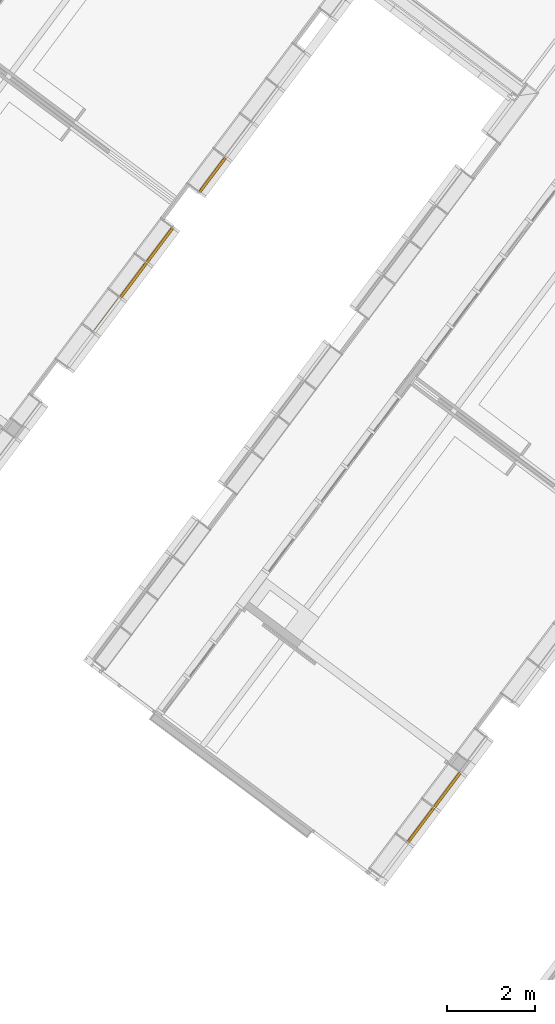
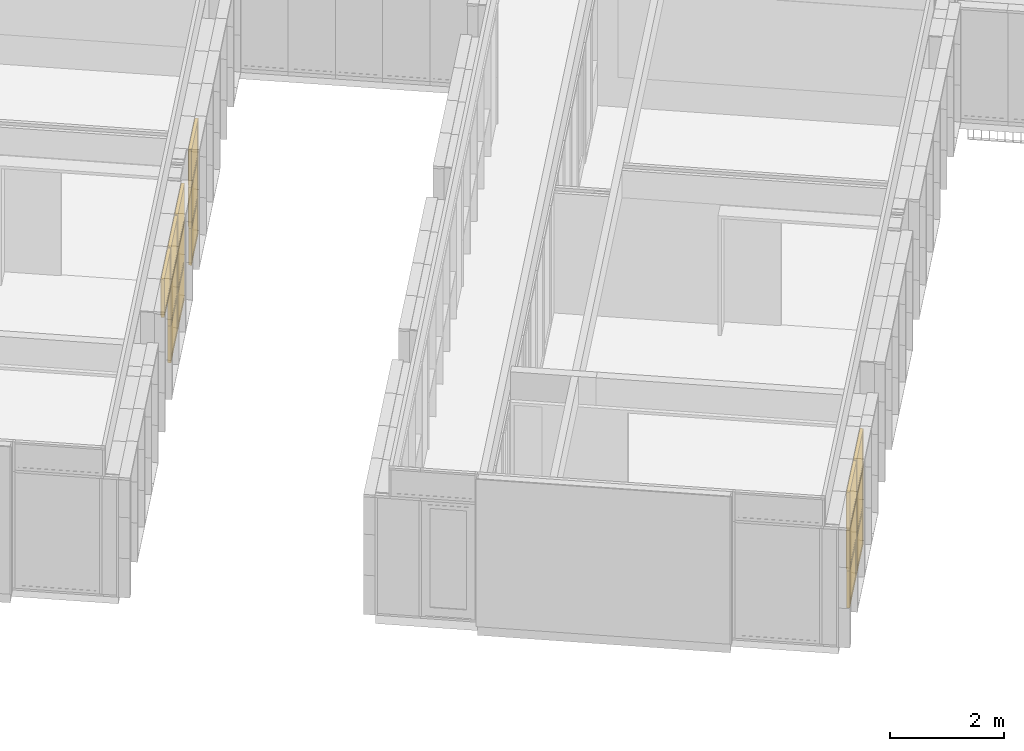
# One storey, part 185 of 243: 16 windows, 2 elements without a shape of their own.
"""IFC2X3 building model written with IfcOpenShell, lengths in metres."""

import ifcopenshell
import ifcopenshell.guid

model = None  # the IFC model being written
_history = None  # IfcOwnerHistory: only IFC2X3 demands one
_inside = {}  # id of a spatial element -> (the spatial element, [elements in it])
_under = {}  # id of a project, library or spatial element -> (it, [spatial elements below it])
_declared = {}  # id of a project -> (the project, [libraries it declares])
_typed = {}  # id of a type object -> (the type object, [elements of that type])
_made_of = {}  # id of a material, layer set ... -> (it, [elements and type objects made of it])


def new_model(schema):
    """Start an empty IFC model of exactly this schema.

    Asked for "IFC4X3", IfcOpenShell would pick the latest addendum, in which some entities
    have other attributes; the version numbers below select the first issue.
    IFC2X3 requires an IfcOwnerHistory on every rooted entity: one is made here for all.
    """
    global model, _history
    if schema == "IFC4X3":
        model = ifcopenshell.file(schema_version=(4, 3, 0, 0))
    else:
        model = ifcopenshell.file(schema=schema)
    _inside.clear()
    _under.clear()
    _declared.clear()
    _typed.clear()
    _made_of.clear()
    _history = None
    if model.schema == "IFC2X3":
        org = make("IfcOrganization", Name="unknown")
        user = make(
            "IfcPersonAndOrganization",
            ThePerson=make("IfcPerson", FamilyName="unknown"),
            TheOrganization=org,
        )
        app = make(
            "IfcApplication",
            ApplicationDeveloper=org,
            Version="unknown",
            ApplicationFullName="unknown",
            ApplicationIdentifier="unknown",
        )
        _history = make(
            "IfcOwnerHistory",
            OwningUser=user,
            OwningApplication=app,
            ChangeAction="ADDED",
            CreationDate=0,
        )
    return model


def make(cls, **values):
    """One entity of the class cls with the attributes given. An attribute that is None is left unset."""
    return model.create_entity(
        cls, **{name: value for name, value in values.items() if value is not None}
    )


def entity(cls, *values):
    """Any entity or typed value of the class cls, its attributes in the order of the schema. None: left unset."""
    e = model.create_entity(cls)
    for i, value in enumerate(values):
        if value is not None:
            e[i] = value
    return e


def rooted(cls, **values):
    """An entity with a GlobalId (a new one), such as an element, a storey or a relation."""
    return make(cls, GlobalId=ifcopenshell.guid.new(), OwnerHistory=_history, **values)


def si_unit(unit_type, name, prefix=None):
    """IfcSIUnit, for example si_unit("LENGTHUNIT", "METRE", prefix="MILLI")."""
    return make("IfcSIUnit", UnitType=unit_type, Prefix=prefix, Name=name)


def converted_unit(unit_type, name, factor, base, dimensions=None, offset=None):
    """IfcConversionBasedUnit, such as the inch: factor (a typed value) times the base unit."""
    return make(
        "IfcConversionBasedUnit"
        if offset is None
        else "IfcConversionBasedUnitWithOffset",
        ConversionOffset=offset,
        Dimensions=None
        if dimensions is None
        else entity("IfcDimensionalExponents", *dimensions),
        UnitType=unit_type,
        Name=name,
        ConversionFactor=make(
            "IfcMeasureWithUnit", ValueComponent=factor, UnitComponent=base
        ),
    )


def derived_unit(unit_type, elements):
    """IfcDerivedUnit: a product of units, each with its exponent."""
    return make(
        "IfcDerivedUnit",
        Elements=[
            make("IfcDerivedUnitElement", Unit=unit, Exponent=power)
            for unit, power in elements
        ],
        UnitType=unit_type,
    )


def assignment(units):
    """IfcUnitAssignment: the units of a project."""
    return None if units is None else make("IfcUnitAssignment", Units=units)


def point(xyz):
    """IfcCartesianPoint."""
    return None if xyz is None else make("IfcCartesianPoint", Coordinates=xyz)


def direction(xyz):
    """IfcDirection."""
    return None if xyz is None else make("IfcDirection", DirectionRatios=xyz)


def frame(location, z_axis=None, x_axis=None):
    """IfcAxis2Placement3D, a coordinate frame: its origin and axes. An axis left out is left unset."""
    return make(
        "IfcAxis2Placement3D",
        Location=point(location),
        Axis=direction(z_axis),
        RefDirection=direction(x_axis),
    )


def origin():
    """The frame at (0, 0, 0) with its axes left unset."""
    return frame((0.0, 0.0, 0.0))


def place(relative_to, where):
    """IfcLocalPlacement: puts the frame where relative to a parent placement (None: the world)."""
    return make(
        "IfcLocalPlacement", PlacementRelTo=relative_to, RelativePlacement=where
    )


def context(
    kind, dimensions, precision=None, world=None, true_north=None, identifier=None
):
    """IfcGeometricRepresentationContext, for example the 3D "Model" context."""
    return make(
        "IfcGeometricRepresentationContext",
        ContextIdentifier=identifier,
        ContextType=kind,
        CoordinateSpaceDimension=dimensions,
        Precision=precision,
        WorldCoordinateSystem=world,
        TrueNorth=true_north,
    )


def subcontext(parent, identifier, kind, view, scale=None):
    """IfcGeometricRepresentationSubContext, for example "Body" below "Model"."""
    return make(
        "IfcGeometricRepresentationSubContext",
        ContextIdentifier=identifier,
        ContextType=kind,
        ParentContext=parent,
        TargetScale=scale,
        TargetView=view,
    )


def project(units=None, contexts=None):
    """IfcProject with its units and contexts."""
    return rooted(
        "IfcProject",
        Name="project",
        RepresentationContexts=contexts,
        UnitsInContext=assignment(units),
    )


def spatial(cls, under=None, at=None, **own):
    """A site, building, storey or space (cls), placed at a placement, below another one or the project."""
    s = rooted(cls, ObjectPlacement=at, **own)
    if under is not None:
        _under.setdefault(under.id(), (under, []))[1].append(s)
    return s


def faces_of(points, faces, orient=None, outer=None):
    """IfcFace entities. A face is a list of loops; a loop is a list of indices into points, from 0.

    orient and outer hold one flag for each loop. By default every Orientation is true, the
    first loop of a face is its IfcFaceOuterBound and the others are IfcFaceBound.
    """
    made = []
    for i, loops in enumerate(faces):
        bounds = []
        for j, loop in enumerate(loops):
            is_outer = j == 0 if outer is None else outer[i][j]
            bounds.append(
                make(
                    "IfcFaceOuterBound" if is_outer else "IfcFaceBound",
                    Bound=make("IfcPolyLoop", Polygon=[points[k] for k in loop]),
                    Orientation=True if orient is None else orient[i][j],
                )
            )
        made.append(make("IfcFace", Bounds=bounds))
    return made


def faceted_brep(points, faces, orient=None, outer=None, voids=None):
    """IfcFacetedBrep: a solid bounded by flat faces; with voids (closed shells), ...WithVoids."""
    shared = [point(p) for p in points]
    hull = make("IfcClosedShell", CfsFaces=faces_of(shared, faces, orient, outer))
    if voids is None:
        return make("IfcFacetedBrep", Outer=hull)
    return make(
        "IfcFacetedBrepWithVoids",
        Outer=hull,
        Voids=[
            make(cls, CfsFaces=faces_of(shared, fs, o, b)) for cls, fs, o, b in voids
        ],
    )


def shape(context_of_items, identifier, shape_type, items):
    """IfcShapeRepresentation: the items that make up one representation, for example the "Body"."""
    return make(
        "IfcShapeRepresentation",
        ContextOfItems=context_of_items,
        RepresentationIdentifier=identifier,
        RepresentationType=shape_type,
        Items=items,
    )


def source(mapping_origin, context_of_items, identifier, shape_type, items):
    """IfcRepresentationMap: a shape defined once, which mapped items show again and again."""
    return make(
        "IfcRepresentationMap",
        MappingOrigin=mapping_origin,
        MappedRepresentation=shape(context_of_items, identifier, shape_type, items),
    )


def transform(
    local_origin,
    x_axis=None,
    y_axis=None,
    z_axis=None,
    scale=None,
    scale2=None,
    scale3=None,
    uniform=True,
):
    """IfcCartesianTransformationOperator3D, or its non-uniform kind. x_axis, y_axis, z_axis: its Axis1, 2, 3."""
    if uniform:
        return make(
            "IfcCartesianTransformationOperator3D",
            Axis1=direction(x_axis),
            Axis2=direction(y_axis),
            LocalOrigin=point(local_origin),
            Scale=scale,
            Axis3=direction(z_axis),
        )
    return make(
        "IfcCartesianTransformationOperator3DnonUniform",
        Axis1=direction(x_axis),
        Axis2=direction(y_axis),
        LocalOrigin=point(local_origin),
        Scale=scale,
        Axis3=direction(z_axis),
        Scale2=scale2,
        Scale3=scale3,
    )


def mapped(mapping_source, mapping_target):
    """IfcMappedItem: shows the shape of a source again, moved by a transform."""
    return make(
        "IfcMappedItem", MappingSource=mapping_source, MappingTarget=mapping_target
    )


def material(Name=None, Category=None):
    """IfcMaterial."""
    return make("IfcMaterial", Name=Name, Category=Category)


def material_list(materials):
    """IfcMaterialList."""
    return make("IfcMaterialList", Materials=materials)


def made_of(thing, what):
    """Note that an element or type object is made of a material, layer set ...; save() writes the relation."""
    if what is not None:
        _made_of.setdefault(what.id(), (what, []))[1].append(thing)
    return thing


def type_object(cls, material=None, **own):
    """A type object (cls), such as IfcWallType, which elements share."""
    return made_of(rooted(cls, **own), material)


def type_shapes(of_type, sources):
    """Give a type object the sources (RepresentationMaps) that its elements show as mapped items."""
    of_type.RepresentationMaps = sources


def element(
    cls,
    number,
    at=None,
    inside=None,
    cuts=None,
    type_object=None,
    material=None,
    context=None,
    identifier="Body",
    shape_type=None,
    held_by="IfcProductDefinitionShape",
    body=None,
    shapes=None,
    **own,
):
    """One element of the class cls, such as IfcWall. Its Tag is "e" and its number.

    at: its placement. inside: the storey or other place that contains it. cuts: it is an
    opening in that element (IfcRelVoidsElement). A single representation is given by context,
    identifier, shape_type and body (its items); several are given by shapes. held_by: the class
    of the entity that holds the representations. save() writes the other relations.
    """
    e = rooted(cls, Tag="e%d" % number, ObjectPlacement=at, **own)
    if body is not None:
        shapes = [shape(context, identifier, shape_type, body)]
    if shapes is not None:
        e.Representation = make(held_by, Representations=shapes)
    if inside is not None:
        _inside.setdefault(inside.id(), (inside, []))[1].append(e)
    if cuts is not None:
        rooted(
            "IfcRelVoidsElement", RelatingBuildingElement=cuts, RelatedOpeningElement=e
        )
    if type_object is not None:
        _typed.setdefault(type_object.id(), (type_object, []))[1].append(e)
    return made_of(e, material)


def aggregate(whole, parts):
    """IfcRelAggregates: a whole, such as a stair, and the parts it consists of."""
    return rooted("IfcRelAggregates", RelatingObject=whole, RelatedObjects=parts)


def save(model, path):
    """Write the relations noted so far, then the file.

    IfcRelAggregates (storeys below a building ...), IfcRelContainedInSpatialStructure (elements
    in a storey), IfcRelDefinesByType, IfcRelAssociatesMaterial and IfcRelDeclares: one each for
    every whole, place, type object, material and project.
    """
    for whole, parts in _under.values():
        aggregate(whole, parts)
    for where, things in _inside.values():
        rooted(
            "IfcRelContainedInSpatialStructure",
            RelatedElements=things,
            RelatingStructure=where,
        )
    for kind, things in _typed.values():
        rooted("IfcRelDefinesByType", RelatedObjects=things, RelatingType=kind)
    for what, things in _made_of.values():
        rooted("IfcRelAssociatesMaterial", RelatedObjects=things, RelatingMaterial=what)
    for by, libraries in _declared.values():
        rooted("IfcRelDeclares", RelatingContext=by, RelatedDefinitions=libraries)
    model.write(path)


model = new_model("IFC2X3")

# Units and contexts
model_context = context("Model", 3, precision=1e-05, world=origin(), true_north=direction((6.123031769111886e-17, 1.0)))
body_context = subcontext(model_context, "Body", "Model", "MODEL_VIEW")
ifc_project = project(units=[si_unit("LENGTHUNIT", "METRE"), si_unit("AREAUNIT", "SQUARE_METRE"), si_unit("VOLUMEUNIT", "CUBIC_METRE"), converted_unit("PLANEANGLEUNIT", "DEGREE", entity("IfcRatioMeasure", 0.017453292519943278), si_unit("PLANEANGLEUNIT", "RADIAN"), dimensions=[0, 0, 0, 0, 0, 0, 0]), si_unit("MASSUNIT", "GRAM", prefix="KILO"), derived_unit("MASSDENSITYUNIT", [(si_unit("MASSUNIT", "GRAM", prefix="KILO"), 1), (si_unit("LENGTHUNIT", "METRE"), -3)]), derived_unit("IONCONCENTRATIONUNIT", [(si_unit("MASSUNIT", "GRAM", prefix="KILO"), 1), (si_unit("LENGTHUNIT", "METRE"), -3)]), derived_unit("MOMENTOFINERTIAUNIT", [(si_unit("LENGTHUNIT", "METRE"), 4)]), si_unit("TIMEUNIT", "SECOND"), si_unit("FREQUENCYUNIT", "HERTZ"), si_unit("THERMODYNAMICTEMPERATUREUNIT", "DEGREE_CELSIUS"), derived_unit("THERMALTRANSMITTANCEUNIT", [(si_unit("MASSUNIT", "GRAM", prefix="KILO"), 1), (si_unit("THERMODYNAMICTEMPERATUREUNIT", "KELVIN"), -1), (si_unit("TIMEUNIT", "SECOND"), -3)]), derived_unit("THERMALCONDUCTANCEUNIT", [(si_unit("MASSUNIT", "GRAM", prefix="KILO"), 1), (si_unit("THERMODYNAMICTEMPERATUREUNIT", "KELVIN"), -1), (si_unit("TIMEUNIT", "SECOND"), -3), (si_unit("LENGTHUNIT", "METRE"), 1)]), derived_unit("VOLUMETRICFLOWRATEUNIT", [(si_unit("LENGTHUNIT", "METRE"), 3), (si_unit("TIMEUNIT", "SECOND"), -1)]), derived_unit("MASSFLOWRATEUNIT", [(si_unit("MASSUNIT", "GRAM", prefix="KILO"), 1), (si_unit("TIMEUNIT", "SECOND"), -1)]), derived_unit("ROTATIONALFREQUENCYUNIT", [(si_unit("TIMEUNIT", "SECOND"), -1)]), si_unit("ELECTRICCURRENTUNIT", "AMPERE"), si_unit("ELECTRICVOLTAGEUNIT", "VOLT"), si_unit("POWERUNIT", "WATT"), si_unit("FORCEUNIT", "NEWTON", prefix="KILO"), si_unit("ILLUMINANCEUNIT", "LUX"), si_unit("LUMINOUSFLUXUNIT", "LUMEN"), si_unit("LUMINOUSINTENSITYUNIT", "CANDELA"), derived_unit("USERDEFINED", [(si_unit("MASSUNIT", "GRAM", prefix="KILO"), -1), (si_unit("LENGTHUNIT", "METRE"), -2), (si_unit("TIMEUNIT", "SECOND"), 3), (si_unit("LUMINOUSFLUXUNIT", "LUMEN"), 1)]), derived_unit("USERDEFINED", [(si_unit("MASSUNIT", "GRAM", prefix="KILO"), 1), (si_unit("TIMEUNIT", "SECOND"), -3), (si_unit("LENGTHUNIT", "METRE"), 3), (si_unit("ELECTRICCURRENTUNIT", "AMPERE"), -2)]), derived_unit("SOUNDPOWERUNIT", [(si_unit("MASSUNIT", "GRAM", prefix="KILO"), 1), (si_unit("TIMEUNIT", "SECOND"), -3), (si_unit("LENGTHUNIT", "METRE"), 2)]), derived_unit("SOUNDPRESSUREUNIT", [(si_unit("MASSUNIT", "GRAM", prefix="KILO"), 1), (si_unit("LENGTHUNIT", "METRE"), -1), (si_unit("TIMEUNIT", "SECOND"), -2)]), derived_unit("LINEARVELOCITYUNIT", [(si_unit("LENGTHUNIT", "METRE"), 1), (si_unit("TIMEUNIT", "SECOND"), -1)]), si_unit("PRESSUREUNIT", "PASCAL"), derived_unit("USERDEFINED", [(si_unit("MASSUNIT", "GRAM", prefix="KILO"), 1), (si_unit("LENGTHUNIT", "METRE"), -2), (si_unit("TIMEUNIT", "SECOND"), -2)]), derived_unit("LINEARFORCEUNIT", [(si_unit("MASSUNIT", "GRAM", prefix="KILO"), 1), (si_unit("TIMEUNIT", "SECOND"), -2)]), derived_unit("PLANARFORCEUNIT", [(si_unit("MASSUNIT", "GRAM", prefix="KILO"), 1), (si_unit("LENGTHUNIT", "METRE"), -1), (si_unit("TIMEUNIT", "SECOND"), -2)]), derived_unit("SPECIFICHEATCAPACITYUNIT", [(si_unit("THERMODYNAMICTEMPERATUREUNIT", "KELVIN"), -1), (si_unit("LENGTHUNIT", "METRE"), 2), (si_unit("TIMEUNIT", "SECOND"), -2)]), derived_unit("HEATINGVALUEUNIT", [(si_unit("LENGTHUNIT", "METRE"), 2), (si_unit("TIMEUNIT", "SECOND"), -2)]), derived_unit("VAPORPERMEABILITYUNIT", [(si_unit("LENGTHUNIT", "METRE"), -1), (si_unit("TIMEUNIT", "SECOND"), 1)]), derived_unit("DYNAMICVISCOSITYUNIT", [(si_unit("MASSUNIT", "GRAM", prefix="KILO"), 1), (si_unit("TIMEUNIT", "SECOND"), -1), (si_unit("LENGTHUNIT", "METRE"), -1)]), derived_unit("THERMALEXPANSIONCOEFFICIENTUNIT", [(si_unit("THERMODYNAMICTEMPERATUREUNIT", "KELVIN"), -1)]), derived_unit("MODULUSOFELASTICITYUNIT", [(si_unit("MASSUNIT", "GRAM", prefix="KILO"), 1), (si_unit("LENGTHUNIT", "METRE"), -1), (si_unit("TIMEUNIT", "SECOND"), -2)]), derived_unit("ISOTHERMALMOISTURECAPACITYUNIT", [(si_unit("LENGTHUNIT", "METRE"), 3), (si_unit("MASSUNIT", "GRAM", prefix="KILO"), -1)]), derived_unit("MOISTUREDIFFUSIVITYUNIT", [(si_unit("TIMEUNIT", "SECOND"), -1), (si_unit("LENGTHUNIT", "METRE"), 2)])], contexts=[model_context])

# Site, building, storey
site_placement = place(None, frame((0.0, 0.0, 235.0), z_axis=(0.0, 0.0, 1.0), x_axis=(-0.7996477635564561, 0.6004693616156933, 0.0)))
site = spatial("IfcSite", under=ifc_project, at=site_placement, Name="Default", CompositionType="ELEMENT")
building_placement = place(site_placement, origin())
building = spatial("IfcBuilding", under=site, at=building_placement, CompositionType="ELEMENT")
storey_placement = place(building_placement, origin())
storey = spatial("IfcBuildingStorey", under=building, at=storey_placement, Name="P0- Escola", CompositionType="ELEMENT", Elevation=0.0)

# Curtain wall, windows
curtain_wall_type = type_object("IfcCurtainWallType", Name="Muro cortina:MC- EXT- MC2", PredefinedType="NOTDEFINED")
curtain_wall_1_placement = place(storey_placement, origin())
curtain_wall_1 = element("IfcCurtainWall", 1, at=curtain_wall_1_placement, inside=storey, type_object=curtain_wall_type, Name="Muro cortina:MC- EXT- MC2", ObjectType="Muro cortina:MC- EXT- MC2")
ifc_material_1 = material(Name="_Vidre")
ifc_material_2 = material(Name="_Alumini- T1- Perfil")
ifc_material_list = material_list([ifc_material_1, ifc_material_2])
window_style_1 = type_object("IfcWindowStyle", Name="MC- Alu- Conjunt vidre fix- 62x60 cm:MC- Alu- Conjunt vidre fix- 62x60 cm", ConstructionType="NOTDEFINED", OperationType="NOTDEFINED", ParameterTakesPrecedence=False, Sizeable=False, material=ifc_material_list)
shared_shape_1 = source(origin(), body_context, "Body", "Brep", [
    faceted_brep([(0.4361932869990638, -0.007600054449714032, 0.048806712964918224), (0.4361932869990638, -0.03160022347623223, 0.048806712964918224), (-0.4361932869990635, -0.03160022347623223, 0.048806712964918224), (-0.4361932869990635, -0.007600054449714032, 0.048806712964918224), (0.4361932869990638, -0.007600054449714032, 0.7387000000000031), (-0.4361932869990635, -0.007600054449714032, 0.7387000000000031), (-0.4361932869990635, -0.03160022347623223, 0.7387000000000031), (0.4361932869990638, -0.03160022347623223, 0.7387000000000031)], [[[0, 1, 2, 3]], [[4, 0, 3, 5]], [[5, 3, 2, 6]], [[6, 2, 1, 7]], [[7, 1, 0, 4]], [[4, 5, 6, 7]]]),
    faceted_brep([(0.48499999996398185, -0.05999999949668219, 0.7877000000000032), (0.48499999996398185, -0.05999999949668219, 0.0), (0.48499999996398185, 0.0, 0.0), (0.48499999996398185, 0.0, 0.787700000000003), (-0.48499999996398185, 0.0, 0.7877000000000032), (-0.48499999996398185, 0.0, 0.0), (0.4221931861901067, 0.0, 0.7248931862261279), (-0.42219318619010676, 0.0, 0.724893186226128), (-0.4221931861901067, 0.0, 0.0628068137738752), (0.4221931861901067, 0.0, 0.06280681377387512), (-0.48499999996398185, -0.05999999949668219, 0.0), (-0.48499999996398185, -0.05999999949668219, 0.7877000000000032), (-0.42219603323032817, -0.05999999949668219, 0.7248960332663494), (0.42219603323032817, -0.05999999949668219, 0.7248960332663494), (0.42219603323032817, -0.05999999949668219, 0.0628039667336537), (-0.42219603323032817, -0.05999999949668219, 0.0628039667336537), (0.4221960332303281, -0.03160022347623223, 0.7248960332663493), (0.42219603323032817, -0.03160022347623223, 0.0628039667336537), (-0.42219603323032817, -0.03160022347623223, 0.06280396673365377), (-0.42219603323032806, -0.03160022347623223, 0.7248960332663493), (-0.43619328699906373, -0.03160022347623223, 0.738893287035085), (0.43619328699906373, -0.03160022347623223, 0.738893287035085), (0.43619328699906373, -0.03160022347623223, 0.048806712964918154), (-0.43619328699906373, -0.03160022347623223, 0.04880671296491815), (0.43619328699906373, -0.007600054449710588, 0.738893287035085), (0.43619328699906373, -0.007600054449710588, 0.04880671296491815), (-0.43619328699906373, -0.007600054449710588, 0.048806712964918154), (-0.43619328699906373, -0.007600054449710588, 0.738893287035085), (-0.42219318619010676, -0.007600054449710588, 0.724893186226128), (0.42219318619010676, -0.007600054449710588, 0.724893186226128), (0.42219318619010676, -0.007600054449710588, 0.06280681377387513), (-0.42219318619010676, -0.007600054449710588, 0.06280681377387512)], [[[0, 1, 2, 3]], [[4, 3, 2, 5], [6, 7, 8, 9]], [[1, 10, 5, 2]], [[0, 11, 10, 1], [12, 13, 14, 15]], [[16, 17, 14, 13]], [[17, 18, 15, 14]], [[16, 19, 18, 17], [20, 21, 22, 23]], [[24, 25, 22, 21]], [[25, 26, 23, 22]], [[24, 27, 26, 25], [28, 29, 30, 31]], [[6, 9, 30, 29]], [[9, 8, 31, 30]], [[10, 11, 4, 5]], [[18, 19, 12, 15]], [[26, 27, 20, 23]], [[8, 7, 28, 31]], [[11, 0, 3, 4]], [[19, 16, 13, 12]], [[27, 24, 21, 20]], [[7, 6, 29, 28]]], outer=[[True], [True, False], [True], [True, False], [True], [True], [False, True], [True], [True], [True, False], [True], [True], [True], [True], [True], [True], [True], [True], [True], [True]]),
])
type_shapes(window_style_1, [shared_shape_1])
window_1_placement = place(curtain_wall_1_placement, frame((53.74514768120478, -21.915191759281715, 0.03229999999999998), z_axis=(0.0, 0.0, 1.0), x_axis=(0.0, 1.0, 0.0)))
window_1 = element("IfcWindow", 2, at=window_1_placement, type_object=window_style_1, material=ifc_material_list, Name="MC- Alu- Conjunt vidre fix- 62x60 cm:MC- Alu- Conjunt vidre fix- 62x60 cm", ObjectType="MC- Alu- Conjunt vidre fix- 62x60 cm:MC- Alu- Conjunt vidre fix- 62x60 cm", OverallHeight=0.7877000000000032, OverallWidth=0.9699999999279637, context=body_context, shape_type="MappedRepresentation", body=[
    mapped(shared_shape_1, transform((0.0, 0.0, 0.0), scale=1.0)),
])
window_2_placement = place(curtain_wall_1_placement, frame((53.74514768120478, -22.915191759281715, 0.03229999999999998), z_axis=(0.0, 0.0, 1.0), x_axis=(0.0, 1.0, 0.0)))
window_2 = element("IfcWindow", 3, at=window_2_placement, type_object=window_style_1, material=ifc_material_list, Name="MC- Alu- Conjunt vidre fix- 62x60 cm:MC- Alu- Conjunt vidre fix- 62x60 cm", ObjectType="MC- Alu- Conjunt vidre fix- 62x60 cm:MC- Alu- Conjunt vidre fix- 62x60 cm", OverallHeight=0.7877000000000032, OverallWidth=0.9699999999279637, context=body_context, shape_type="MappedRepresentation", body=[
    mapped(shared_shape_1, transform((0.0, 0.0, 0.0), scale=1.0)),
])

curtain_wall_2_placement = place(storey_placement, origin())
curtain_wall_2 = element("IfcCurtainWall", 4, at=curtain_wall_2_placement, inside=storey, type_object=curtain_wall_type, Name="Muro cortina:MC- EXT- MC2", ObjectType="Muro cortina:MC- EXT- MC2")
window_3_placement = place(curtain_wall_2_placement, frame((66.44514768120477, -27.915191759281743, 0.03229999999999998), z_axis=(0.0, 0.0, 1.0), x_axis=(0.0, 1.0, 0.0)))
window_3 = element("IfcWindow", 5, at=window_3_placement, type_object=window_style_1, material=ifc_material_list, Name="MC- Alu- Conjunt vidre fix- 62x60 cm:MC- Alu- Conjunt vidre fix- 62x60 cm", ObjectType="MC- Alu- Conjunt vidre fix- 62x60 cm:MC- Alu- Conjunt vidre fix- 62x60 cm", OverallHeight=0.7877000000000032, OverallWidth=0.9699999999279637, context=body_context, shape_type="MappedRepresentation", body=[
    mapped(shared_shape_1, transform((0.0, 0.0, 0.0), scale=1.0)),
])
window_4_placement = place(curtain_wall_2_placement, frame((66.44514768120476, -28.91519175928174, 0.03229999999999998), z_axis=(0.0, 0.0, 1.0), x_axis=(0.0, 1.0, 0.0)))
window_4 = element("IfcWindow", 6, at=window_4_placement, type_object=window_style_1, material=ifc_material_list, Name="MC- Alu- Conjunt vidre fix- 62x60 cm:MC- Alu- Conjunt vidre fix- 62x60 cm", ObjectType="MC- Alu- Conjunt vidre fix- 62x60 cm:MC- Alu- Conjunt vidre fix- 62x60 cm", OverallHeight=0.7877000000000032, OverallWidth=0.9699999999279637, context=body_context, shape_type="MappedRepresentation", body=[
    mapped(shared_shape_1, transform((0.0, 0.0, 0.0), scale=1.0)),
])
window_5_placement = place(curtain_wall_2_placement, frame((66.44514768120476, -30.91519175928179, 0.03229999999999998), z_axis=(0.0, 0.0, 1.0), x_axis=(0.0, 1.0, 0.0)))
window_5 = element("IfcWindow", 7, at=window_5_placement, type_object=window_style_1, material=ifc_material_list, Name="MC- Alu- Conjunt vidre fix- 62x60 cm:MC- Alu- Conjunt vidre fix- 62x60 cm", ObjectType="MC- Alu- Conjunt vidre fix- 62x60 cm:MC- Alu- Conjunt vidre fix- 62x60 cm", OverallHeight=0.7877000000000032, OverallWidth=0.9699999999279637, context=body_context, shape_type="MappedRepresentation", body=[
    mapped(shared_shape_1, transform((0.0, 0.0, 0.0), scale=1.0)),
])

# Window
window_style_2 = type_object("IfcWindowStyle", Name="MC- Alu- Conjunt finestra basculant- 68x68 cm:MC- Alu- Conjunt finestra basculant- 68x68 cm", ConstructionType="NOTDEFINED", OperationType="NOTDEFINED", ParameterTakesPrecedence=False, Sizeable=False, material=ifc_material_list)
shared_shape_2 = source(origin(), body_context, "Body", "Brep", [
    faceted_brep([(0.43291170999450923, -0.03559830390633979, 0.051999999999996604), (-0.43291170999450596, -0.03559830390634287, 0.051999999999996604), (-0.43291170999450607, -0.011598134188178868, 0.051999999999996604), (0.43291170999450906, -0.011598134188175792, 0.051999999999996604), (0.43291170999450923, -0.035598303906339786, 0.8228027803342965), (0.43291170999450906, -0.011598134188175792, 0.8228027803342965), (-0.43291170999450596, -0.011598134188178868, 0.8228027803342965), (-0.43291170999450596, -0.03559830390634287, 0.8228027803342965)], [[[0, 1, 2, 3]], [[4, 0, 3, 5]], [[5, 3, 2, 6]], [[6, 2, 1, 7]], [[7, 1, 0, 4]], [[4, 5, 6, 7]]]),
    faceted_brep([(-0.4172108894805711, -0.009998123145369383, 0.8071019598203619), (-0.4172108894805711, -0.00999812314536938, 0.06789804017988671), (-0.4172108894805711, -0.007998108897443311, 0.06789804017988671), (-0.4172108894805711, -0.007998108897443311, 0.8071019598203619), (-0.44610892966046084, -0.007998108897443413, 0.8360000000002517), (0.44610892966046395, -0.007998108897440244, 0.8360000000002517), (0.44610892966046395, -0.007998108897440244, 0.03899999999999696), (-0.44610892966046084, -0.007998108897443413, 0.03899999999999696), (0.4172108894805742, -0.007998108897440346, 0.8071019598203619), (0.4172108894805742, -0.007998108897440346, 0.06789804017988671), (0.4172108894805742, -0.009998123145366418, 0.06789804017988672), (0.4172108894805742, -0.009998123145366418, 0.8071019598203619), (0.4329117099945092, -0.00999812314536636, 0.8228027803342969), (-0.43291170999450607, -0.009998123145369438, 0.8228027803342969), (-0.43291170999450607, -0.009998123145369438, 0.05219721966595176), (0.4329117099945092, -0.00999812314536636, 0.052197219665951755), (-0.4329117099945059, -0.04079986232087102, 0.8228027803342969), (-0.4329117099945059, -0.04079986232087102, 0.052197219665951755), (0.4329117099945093, -0.04079986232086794, 0.05219721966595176), (0.4329117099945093, -0.04079986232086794, 0.8228027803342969), (0.41721088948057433, -0.040799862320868, 0.8071019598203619), (-0.41721088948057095, -0.04079986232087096, 0.8071019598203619), (-0.41721088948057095, -0.04079986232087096, 0.06789804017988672), (0.41721088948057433, -0.040799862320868, 0.06789804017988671), (-0.4172108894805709, -0.06800005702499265, 0.8071019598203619), (-0.4172108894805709, -0.06800005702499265, 0.06789804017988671), (0.4172108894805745, -0.0680000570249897, 0.06789804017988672), (0.4172108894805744, -0.0680000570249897, 0.8071019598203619), (0.4636128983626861, -0.06800005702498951, 0.8535039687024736), (-0.4636128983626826, -0.06800005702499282, 0.8535039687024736), (-0.4636128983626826, -0.06800005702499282, 0.021496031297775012), (0.4636128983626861, -0.06800005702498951, 0.021496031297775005), (-0.4636128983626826, -0.0645000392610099, 0.8535039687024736), (-0.4636128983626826, -0.06450003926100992, 0.021496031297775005), (0.4636128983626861, -0.06450003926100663, 0.021496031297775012), (0.4636128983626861, -0.06450003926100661, 0.8535039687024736), (0.44610892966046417, -0.06450003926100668, 0.8360000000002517), (-0.4461089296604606, -0.06450003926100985, 0.8360000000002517), (-0.4461089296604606, -0.06450003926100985, 0.03899999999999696), (0.44610892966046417, -0.06450003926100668, 0.038999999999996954)], [[[0, 1, 2, 3]], [[4, 5, 6, 7], [8, 3, 2, 9]], [[1, 10, 9, 2]], [[0, 11, 10, 1], [12, 13, 14, 15]], [[16, 17, 14, 13]], [[17, 18, 15, 14]], [[16, 19, 18, 17], [20, 21, 22, 23]], [[24, 25, 22, 21]], [[25, 26, 23, 22]], [[24, 27, 26, 25], [28, 29, 30, 31]], [[32, 33, 30, 29]], [[33, 34, 31, 30]], [[32, 35, 34, 33], [36, 37, 38, 39]], [[4, 7, 38, 37]], [[7, 6, 39, 38]], [[10, 11, 8, 9]], [[18, 19, 12, 15]], [[26, 27, 20, 23]], [[34, 35, 28, 31]], [[6, 5, 36, 39]], [[11, 0, 3, 8]], [[19, 16, 13, 12]], [[27, 24, 21, 20]], [[35, 32, 29, 28]], [[5, 4, 37, 36]]], outer=[[True], [True, False], [True], [False, True], [True], [True], [True, False], [True], [True], [False, True], [True], [True], [True, False], [True], [True], [True], [True], [True], [True], [True], [True], [True], [True], [True], [True]]),
    faceted_brep([(0.42219318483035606, 0.0, 0.8121931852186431), (0.42219318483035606, 0.0, 0.06280681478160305), (0.42219318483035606, -0.0040000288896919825, 0.06280681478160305), (0.42219318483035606, -0.0040000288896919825, 0.8121931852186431), (-0.42219318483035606, -0.0040000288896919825, 0.8121931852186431), (-0.42219318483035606, -0.0040000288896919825, 0.06280681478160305), (0.4575998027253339, -0.0040000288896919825, 0.8475998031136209), (-0.4575998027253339, -0.0040000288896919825, 0.8475998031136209), (-0.4575998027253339, -0.0040000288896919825, 0.027400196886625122), (0.4575998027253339, -0.0040000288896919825, 0.02740019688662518), (-0.42219318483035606, 0.0, 0.06280681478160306), (-0.42219318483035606, 0.0, 0.8121931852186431), (-0.48499999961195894, 0.0, 0.875000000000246), (0.48499999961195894, 0.0, 0.875000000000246), (0.48499999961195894, 0.0, 0.0), (-0.48499999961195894, 0.0, 0.0), (0.48499999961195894, -0.05999999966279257, 0.875000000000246), (0.48499999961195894, -0.05999999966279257, 0.0), (-0.48499999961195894, -0.05999999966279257, 0.0), (-0.48499999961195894, -0.05999999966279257, 0.875000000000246), (-0.4575998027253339, -0.05999999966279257, 0.8475998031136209), (0.4575998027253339, -0.05999999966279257, 0.8475998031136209), (0.4575998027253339, -0.05999999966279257, 0.027400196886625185), (-0.4575998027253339, -0.05999999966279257, 0.02740019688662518)], [[[0, 1, 2, 3]], [[4, 3, 2, 5], [6, 7, 8, 9]], [[1, 10, 5, 2]], [[0, 11, 10, 1], [12, 13, 14, 15]], [[16, 17, 14, 13]], [[17, 18, 15, 14]], [[16, 19, 18, 17], [20, 21, 22, 23]], [[6, 9, 22, 21]], [[9, 8, 23, 22]], [[10, 11, 4, 5]], [[18, 19, 12, 15]], [[8, 7, 20, 23]], [[11, 0, 3, 4]], [[19, 16, 13, 12]], [[7, 6, 21, 20]]], outer=[[True], [False, True], [True], [False, True], [True], [True], [True, False], [True], [True], [True], [True], [True], [True], [True], [True]]),
])
type_shapes(window_style_2, [shared_shape_2])
window_6_placement = place(curtain_wall_1_placement, frame((53.74514768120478, -21.915191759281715, 0.8200000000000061), z_axis=(0.0, 0.0, 1.0), x_axis=(0.0, 1.0, 0.0)))
window_6 = element("IfcWindow", 8, at=window_6_placement, type_object=window_style_2, material=ifc_material_list, Name="MC- Alu- Conjunt finestra basculant- 68x68 cm:MC- Alu- Conjunt finestra basculant- 68x68 cm", ObjectType="MC- Alu- Conjunt finestra basculant- 68x68 cm:MC- Alu- Conjunt finestra basculant- 68x68 cm", OverallHeight=0.8750000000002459, OverallWidth=0.9699999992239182, context=body_context, shape_type="MappedRepresentation", body=[
    mapped(shared_shape_2, transform((0.0, 0.0, 0.0), scale=1.0)),
])

window_7_placement = place(curtain_wall_1_placement, frame((53.74514768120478, -22.915191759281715, 0.8200000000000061), z_axis=(0.0, 0.0, 1.0), x_axis=(0.0, 1.0, 0.0)))
window_7 = element("IfcWindow", 9, at=window_7_placement, type_object=window_style_2, material=ifc_material_list, Name="MC- Alu- Conjunt finestra basculant- 68x68 cm:MC- Alu- Conjunt finestra basculant- 68x68 cm", ObjectType="MC- Alu- Conjunt finestra basculant- 68x68 cm:MC- Alu- Conjunt finestra basculant- 68x68 cm", OverallHeight=0.8750000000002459, OverallWidth=0.9699999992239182, context=body_context, shape_type="MappedRepresentation", body=[
    mapped(shared_shape_2, transform((0.0, 0.0, 0.0), scale=1.0)),
])

window_8_placement = place(curtain_wall_2_placement, frame((66.44514768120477, -27.915191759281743, 0.8200000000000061), z_axis=(0.0, 0.0, 1.0), x_axis=(0.0, 1.0, 0.0)))
window_8 = element("IfcWindow", 10, at=window_8_placement, type_object=window_style_2, material=ifc_material_list, Name="MC- Alu- Conjunt finestra basculant- 68x68 cm:MC- Alu- Conjunt finestra basculant- 68x68 cm", ObjectType="MC- Alu- Conjunt finestra basculant- 68x68 cm:MC- Alu- Conjunt finestra basculant- 68x68 cm", OverallHeight=0.8750000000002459, OverallWidth=0.9699999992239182, context=body_context, shape_type="MappedRepresentation", body=[
    mapped(shared_shape_2, transform((0.0, 0.0, 0.0), scale=1.0)),
])

window_9_placement = place(curtain_wall_2_placement, frame((66.44514768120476, -28.91519175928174, 0.8200000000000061), z_axis=(0.0, 0.0, 1.0), x_axis=(0.0, 1.0, 0.0)))
window_9 = element("IfcWindow", 11, at=window_9_placement, type_object=window_style_2, material=ifc_material_list, Name="MC- Alu- Conjunt finestra basculant- 68x68 cm:MC- Alu- Conjunt finestra basculant- 68x68 cm", ObjectType="MC- Alu- Conjunt finestra basculant- 68x68 cm:MC- Alu- Conjunt finestra basculant- 68x68 cm", OverallHeight=0.8750000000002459, OverallWidth=0.9699999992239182, context=body_context, shape_type="MappedRepresentation", body=[
    mapped(shared_shape_2, transform((0.0, 0.0, 0.0), scale=1.0)),
])

window_10_placement = place(curtain_wall_2_placement, frame((66.44514768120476, -30.91519175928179, 0.8200000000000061), z_axis=(0.0, 0.0, 1.0), x_axis=(0.0, 1.0, 0.0)))
window_10 = element("IfcWindow", 12, at=window_10_placement, type_object=window_style_2, material=ifc_material_list, Name="MC- Alu- Conjunt finestra basculant- 68x68 cm:MC- Alu- Conjunt finestra basculant- 68x68 cm", ObjectType="MC- Alu- Conjunt finestra basculant- 68x68 cm:MC- Alu- Conjunt finestra basculant- 68x68 cm", OverallHeight=0.8750000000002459, OverallWidth=0.9699999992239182, context=body_context, shape_type="MappedRepresentation", body=[
    mapped(shared_shape_2, transform((0.0, 0.0, 0.0), scale=1.0)),
])

window_style_3 = type_object("IfcWindowStyle", Name="MC- Alu- Conjunt finestra basculant- 68x68 cm:MC- Alu- Conjunt finestra basculant- 68x68 cm", ConstructionType="NOTDEFINED", OperationType="NOTDEFINED", ParameterTakesPrecedence=False, Sizeable=False, material=ifc_material_list)
shared_shape_3 = source(origin(), body_context, "Body", "Brep", [
    faceted_brep([(0.432911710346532, -0.03559830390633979, 0.051999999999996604), (-0.43291171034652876, -0.03559830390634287, 0.051999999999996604), (-0.4329117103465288, -0.011598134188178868, 0.051999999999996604), (0.43291171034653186, -0.011598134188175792, 0.051999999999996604), (0.432911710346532, -0.035598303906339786, 0.7565527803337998), (0.43291171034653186, -0.011598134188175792, 0.7565527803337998), (-0.43291171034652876, -0.011598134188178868, 0.7565527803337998), (-0.43291171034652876, -0.03559830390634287, 0.7565527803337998)], [[[0, 1, 2, 3]], [[4, 0, 3, 5]], [[5, 3, 2, 6]], [[6, 2, 1, 7]], [[7, 1, 0, 4]], [[4, 5, 6, 7]]]),
    faceted_brep([(-0.41721088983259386, -0.009998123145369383, 0.7408519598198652), (-0.41721088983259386, -0.00999812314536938, 0.06789804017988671), (-0.41721088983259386, -0.007998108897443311, 0.06789804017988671), (-0.41721088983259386, -0.007998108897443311, 0.7408519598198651), (-0.4461089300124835, -0.007998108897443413, 0.7697499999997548), (0.44610893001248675, -0.007998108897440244, 0.7697499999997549), (0.4461089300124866, -0.007998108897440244, 0.03899999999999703), (-0.44610893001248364, -0.007998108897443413, 0.03899999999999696), (0.41721088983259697, -0.007998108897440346, 0.7408519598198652), (0.41721088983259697, -0.007998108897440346, 0.06789804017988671), (0.41721088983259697, -0.009998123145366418, 0.06789804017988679), (0.41721088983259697, -0.009998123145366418, 0.7408519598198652), (0.4329117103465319, -0.00999812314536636, 0.7565527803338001), (-0.4329117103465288, -0.009998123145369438, 0.7565527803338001), (-0.4329117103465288, -0.009998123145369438, 0.05219721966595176), (0.4329117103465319, -0.00999812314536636, 0.052197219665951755), (-0.4329117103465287, -0.04079986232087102, 0.7565527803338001), (-0.4329117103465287, -0.04079986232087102, 0.052197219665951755), (0.4329117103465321, -0.04079986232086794, 0.05219721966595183), (0.4329117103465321, -0.04079986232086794, 0.7565527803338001), (0.41721088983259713, -0.040799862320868, 0.7408519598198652), (-0.41721088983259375, -0.04079986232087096, 0.7408519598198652), (-0.41721088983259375, -0.04079986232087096, 0.06789804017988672), (0.41721088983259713, -0.040799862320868, 0.06789804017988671), (-0.4172108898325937, -0.06800005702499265, 0.7408519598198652), (-0.4172108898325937, -0.06800005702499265, 0.06789804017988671), (0.41721088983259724, -0.0680000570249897, 0.06789804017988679), (0.4172108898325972, -0.0680000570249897, 0.7408519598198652), (0.4636128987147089, -0.06800005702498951, 0.7872539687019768), (-0.46361289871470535, -0.06800005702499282, 0.7872539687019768), (-0.46361289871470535, -0.06800005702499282, 0.021496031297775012), (0.4636128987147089, -0.06800005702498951, 0.021496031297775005), (-0.46361289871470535, -0.0645000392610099, 0.7872539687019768), (-0.46361289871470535, -0.06450003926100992, 0.021496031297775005), (0.4636128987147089, -0.06450003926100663, 0.02149603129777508), (0.4636128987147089, -0.06450003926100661, 0.7872539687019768), (0.4461089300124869, -0.06450003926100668, 0.7697499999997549), (-0.4461089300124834, -0.06450003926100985, 0.7697499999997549), (-0.4461089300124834, -0.06450003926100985, 0.03899999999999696), (0.4461089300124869, -0.06450003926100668, 0.038999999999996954)], [[[0, 1, 2, 3]], [[4, 5, 6, 7], [8, 3, 2, 9]], [[1, 10, 9, 2]], [[0, 11, 10, 1], [12, 13, 14, 15]], [[16, 17, 14, 13]], [[17, 18, 15, 14]], [[16, 19, 18, 17], [20, 21, 22, 23]], [[24, 25, 22, 21]], [[25, 26, 23, 22]], [[24, 27, 26, 25], [28, 29, 30, 31]], [[32, 33, 30, 29]], [[33, 34, 31, 30]], [[32, 35, 34, 33], [36, 37, 38, 39]], [[4, 7, 38, 37]], [[7, 6, 39, 38]], [[10, 11, 8, 9]], [[18, 19, 12, 15]], [[26, 27, 20, 23]], [[34, 35, 28, 31]], [[6, 5, 36, 39]], [[11, 0, 3, 8]], [[19, 16, 13, 12]], [[27, 24, 21, 20]], [[35, 32, 29, 28]], [[5, 4, 37, 36]]], outer=[[True], [True, False], [True], [False, True], [True], [True], [True, False], [True], [True], [False, True], [True], [True], [True, False], [True], [True], [True], [True], [True], [True], [True], [True], [True], [True], [True], [True]]),
    faceted_brep([(0.4221931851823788, 0.0, 0.7459431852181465), (0.4221931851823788, 0.0, 0.06280681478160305), (0.4221931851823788, -0.0040000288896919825, 0.06280681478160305), (0.4221931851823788, -0.0040000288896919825, 0.7459431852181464), (-0.4221931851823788, -0.0040000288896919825, 0.7459431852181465), (-0.4221931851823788, -0.0040000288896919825, 0.06280681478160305), (0.4575998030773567, -0.0040000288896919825, 0.7813498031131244), (-0.4575998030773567, -0.0040000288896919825, 0.7813498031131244), (-0.4575998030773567, -0.0040000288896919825, 0.027400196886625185), (0.4575998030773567, -0.0040000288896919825, 0.02740019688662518), (-0.4221931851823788, 0.0, 0.06280681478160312), (-0.4221931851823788, 0.0, 0.7459431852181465), (-0.48499999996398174, 0.0, 0.8087499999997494), (0.48499999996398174, 0.0, 0.8087499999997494), (0.48499999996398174, 0.0, 0.0), (-0.48499999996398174, 0.0, 0.0), (0.48499999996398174, -0.05999999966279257, 0.8087499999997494), (0.48499999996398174, -0.05999999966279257, 0.0), (-0.48499999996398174, -0.05999999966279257, 0.0), (-0.48499999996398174, -0.05999999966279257, 0.8087499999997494), (-0.4575998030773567, -0.05999999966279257, 0.7813498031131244), (0.4575998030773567, -0.05999999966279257, 0.7813498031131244), (0.4575998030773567, -0.05999999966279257, 0.027400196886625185), (-0.4575998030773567, -0.05999999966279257, 0.02740019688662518)], [[[0, 1, 2, 3]], [[4, 3, 2, 5], [6, 7, 8, 9]], [[1, 10, 5, 2]], [[0, 11, 10, 1], [12, 13, 14, 15]], [[16, 17, 14, 13]], [[17, 18, 15, 14]], [[16, 19, 18, 17], [20, 21, 22, 23]], [[6, 9, 22, 21]], [[9, 8, 23, 22]], [[10, 11, 4, 5]], [[18, 19, 12, 15]], [[8, 7, 20, 23]], [[11, 0, 3, 4]], [[19, 16, 13, 12]], [[7, 6, 21, 20]]], outer=[[True], [False, True], [True], [False, True], [True], [True], [True, False], [True], [True], [True], [True], [True], [True], [True], [True]]),
])
type_shapes(window_style_3, [shared_shape_3])
window_11_placement = place(curtain_wall_1_placement, frame((53.74514768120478, -21.915191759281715, 1.6950000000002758), z_axis=(0.0, 0.0, 1.0), x_axis=(0.0, 1.0, 0.0)))
window_11 = element("IfcWindow", 13, at=window_11_placement, type_object=window_style_3, material=ifc_material_list, Name="MC- Alu- Conjunt finestra basculant- 68x68 cm:MC- Alu- Conjunt finestra basculant- 68x68 cm", ObjectType="MC- Alu- Conjunt finestra basculant- 68x68 cm:MC- Alu- Conjunt finestra basculant- 68x68 cm", OverallHeight=0.8087499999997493, OverallWidth=0.9699999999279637, context=body_context, shape_type="MappedRepresentation", body=[
    mapped(shared_shape_3, transform((0.0, 0.0, 0.0), scale=1.0)),
])

window_12_placement = place(curtain_wall_1_placement, frame((53.74514768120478, -22.915191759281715, 1.6950000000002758), z_axis=(0.0, 0.0, 1.0), x_axis=(0.0, 1.0, 0.0)))
window_12 = element("IfcWindow", 14, at=window_12_placement, type_object=window_style_3, material=ifc_material_list, Name="MC- Alu- Conjunt finestra basculant- 68x68 cm:MC- Alu- Conjunt finestra basculant- 68x68 cm", ObjectType="MC- Alu- Conjunt finestra basculant- 68x68 cm:MC- Alu- Conjunt finestra basculant- 68x68 cm", OverallHeight=0.8087499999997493, OverallWidth=0.9699999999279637, context=body_context, shape_type="MappedRepresentation", body=[
    mapped(shared_shape_3, transform((0.0, 0.0, 0.0), scale=1.0)),
])

aggregate(curtain_wall_1, [window_1, window_2, window_6, window_7, window_11, window_12])

window_13_placement = place(curtain_wall_2_placement, frame((66.44514768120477, -26.915191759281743, 1.6950000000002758), z_axis=(0.0, 0.0, 1.0), x_axis=(0.0, 1.0, 0.0)))
window_13 = element("IfcWindow", 15, at=window_13_placement, type_object=window_style_3, material=ifc_material_list, Name="MC- Alu- Conjunt finestra basculant- 68x68 cm:MC- Alu- Conjunt finestra basculant- 68x68 cm", ObjectType="MC- Alu- Conjunt finestra basculant- 68x68 cm:MC- Alu- Conjunt finestra basculant- 68x68 cm", OverallHeight=0.8087499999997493, OverallWidth=0.9699999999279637, context=body_context, shape_type="MappedRepresentation", body=[
    mapped(shared_shape_3, transform((0.0, 0.0, 0.0), scale=1.0)),
])

window_14_placement = place(curtain_wall_2_placement, frame((66.44514768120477, -27.915191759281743, 1.6950000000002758), z_axis=(0.0, 0.0, 1.0), x_axis=(0.0, 1.0, 0.0)))
window_14 = element("IfcWindow", 16, at=window_14_placement, type_object=window_style_3, material=ifc_material_list, Name="MC- Alu- Conjunt finestra basculant- 68x68 cm:MC- Alu- Conjunt finestra basculant- 68x68 cm", ObjectType="MC- Alu- Conjunt finestra basculant- 68x68 cm:MC- Alu- Conjunt finestra basculant- 68x68 cm", OverallHeight=0.8087499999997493, OverallWidth=0.9699999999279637, context=body_context, shape_type="MappedRepresentation", body=[
    mapped(shared_shape_3, transform((0.0, 0.0, 0.0), scale=1.0)),
])

window_15_placement = place(curtain_wall_2_placement, frame((66.44514768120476, -28.91519175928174, 1.6950000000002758), z_axis=(0.0, 0.0, 1.0), x_axis=(0.0, 1.0, 0.0)))
window_15 = element("IfcWindow", 17, at=window_15_placement, type_object=window_style_3, material=ifc_material_list, Name="MC- Alu- Conjunt finestra basculant- 68x68 cm:MC- Alu- Conjunt finestra basculant- 68x68 cm", ObjectType="MC- Alu- Conjunt finestra basculant- 68x68 cm:MC- Alu- Conjunt finestra basculant- 68x68 cm", OverallHeight=0.8087499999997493, OverallWidth=0.9699999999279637, context=body_context, shape_type="MappedRepresentation", body=[
    mapped(shared_shape_3, transform((0.0, 0.0, 0.0), scale=1.0)),
])

window_16_placement = place(curtain_wall_2_placement, frame((66.44514768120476, -30.91519175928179, 1.6950000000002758), z_axis=(0.0, 0.0, 1.0), x_axis=(0.0, 1.0, 0.0)))
window_16 = element("IfcWindow", 18, at=window_16_placement, type_object=window_style_3, material=ifc_material_list, Name="MC- Alu- Conjunt finestra basculant- 68x68 cm:MC- Alu- Conjunt finestra basculant- 68x68 cm", ObjectType="MC- Alu- Conjunt finestra basculant- 68x68 cm:MC- Alu- Conjunt finestra basculant- 68x68 cm", OverallHeight=0.8087499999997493, OverallWidth=0.9699999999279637, context=body_context, shape_type="MappedRepresentation", body=[
    mapped(shared_shape_3, transform((0.0, 0.0, 0.0), scale=1.0)),
])

aggregate(curtain_wall_2, [window_3, window_4, window_5, window_8, window_9, window_10, window_13, window_14, window_15, window_16])

save(model, "model.ifc")
